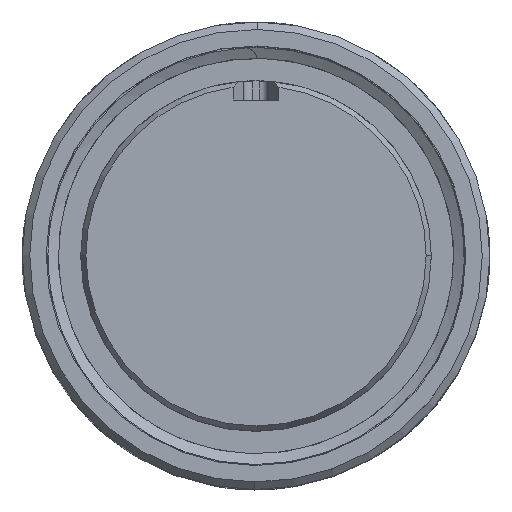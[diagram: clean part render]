
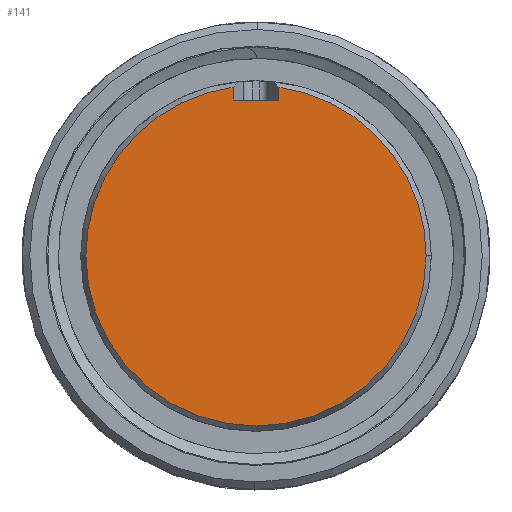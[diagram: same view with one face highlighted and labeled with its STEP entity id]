
A CAD part, top view. The second image highlights one B-rep face of the part: STEP entity #141.
In plain terms, the highlighted planar face has unit normal (0, 0, 1).
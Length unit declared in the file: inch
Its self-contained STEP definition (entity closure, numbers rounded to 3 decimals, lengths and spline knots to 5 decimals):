
#141 = ADVANCED_FACE ( 'NONE', ( #4339 ), #696, .F. ) ;
#154 = CARTESIAN_POINT ( 'NONE',  ( 0.07664, 0.655, 1.004 ) ) ;
#204 = DIRECTION ( 'NONE',  ( 1., 0., 0. ) ) ;
#354 = CARTESIAN_POINT ( 'NONE',  ( -0.042, 0.52, 1.004 ) ) ;
#439 = EDGE_CURVE ( 'NONE', #2322, #1089, #4084, .T. ) ;
#539 = VECTOR ( 'NONE', #1221, 39.37008 ) ;
#669 = AXIS2_PLACEMENT_3D ( 'NONE', #3134, #2744, #725 ) ;
#688 = VERTEX_POINT ( 'NONE', #3410 ) ;
#696 = PLANE ( 'NONE',  #669 ) ;
#725 = DIRECTION ( 'NONE',  ( -1., 0., 0. ) ) ;
#726 = DIRECTION ( 'NONE',  ( 1., 0., 0. ) ) ;
#738 = EDGE_LOOP ( 'NONE', ( #2308, #1257, #1462, #4022, #3546, #3319 ) ) ;
#951 = CARTESIAN_POINT ( 'NONE',  ( 0.07664, 0.56248, 1.004 ) ) ;
#966 = AXIS2_PLACEMENT_3D ( 'NONE', #1644, #3249, #1272 ) ;
#1089 = VERTEX_POINT ( 'NONE', #2529 ) ;
#1221 = DIRECTION ( 'NONE',  ( 0., -1., 0. ) ) ;
#1257 = ORIENTED_EDGE ( 'NONE', *, *, #439, .F. ) ;
#1272 = DIRECTION ( 'NONE',  ( 1., 0., 0. ) ) ;
#1348 = EDGE_CURVE ( 'NONE', #2044, #4490, #4583, .T. ) ;
#1462 = ORIENTED_EDGE ( 'NONE', *, *, #3572, .F. ) ;
#1524 = CARTESIAN_POINT ( 'NONE',  ( 0., 0., 1.004 ) ) ;
#1642 = DIRECTION ( 'NONE',  ( 1., 0., 0. ) ) ;
#1644 = CARTESIAN_POINT ( 'NONE',  ( 0., 0., 1.004 ) ) ;
#1784 = DIRECTION ( 'NONE',  ( 0., -1., 0. ) ) ;
#2044 = VERTEX_POINT ( 'NONE', #2071 ) ;
#2051 = CARTESIAN_POINT ( 'NONE',  ( 0., 0., 1.004 ) ) ;
#2071 = CARTESIAN_POINT ( 'NONE',  ( 0.56768, 0., 1.004 ) ) ;
#2113 = CARTESIAN_POINT ( 'NONE',  ( -0.56768, 0., 1.004 ) ) ;
#2308 = ORIENTED_EDGE ( 'NONE', *, *, #5093, .T. ) ;
#2322 = VERTEX_POINT ( 'NONE', #5079 ) ;
#2464 = CARTESIAN_POINT ( 'NONE',  ( -0.07664, 0.655, 1.004 ) ) ;
#2529 = CARTESIAN_POINT ( 'NONE',  ( 0.07664, 0.52, 1.004 ) ) ;
#2744 = DIRECTION ( 'NONE',  ( 0., 0., -1. ) ) ;
#2794 = VECTOR ( 'NONE', #1642, 39.37008 ) ;
#2826 = CIRCLE ( 'NONE', #966, 0.56768 ) ;
#3134 = CARTESIAN_POINT ( 'NONE',  ( 0., 0., 1.004 ) ) ;
#3158 = DIRECTION ( 'NONE',  ( 0., 0., 1. ) ) ;
#3212 = AXIS2_PLACEMENT_3D ( 'NONE', #2051, #3158, #726 ) ;
#3249 = DIRECTION ( 'NONE',  ( 0., 0., 1. ) ) ;
#3319 = ORIENTED_EDGE ( 'NONE', *, *, #1348, .T. ) ;
#3410 = CARTESIAN_POINT ( 'NONE',  ( -0.07664, 0.56248, 1.004 ) ) ;
#3415 = EDGE_CURVE ( 'NONE', #3732, #2044, #4957, .T. ) ;
#3546 = ORIENTED_EDGE ( 'NONE', *, *, #3415, .T. ) ;
#3558 = DIRECTION ( 'NONE',  ( 0., 0., 1. ) ) ;
#3572 = EDGE_CURVE ( 'NONE', #688, #2322, #4889, .T. ) ;
#3732 = VERTEX_POINT ( 'NONE', #2113 ) ;
#3808 = LINE ( 'NONE', #154, #4419 ) ;
#4022 = ORIENTED_EDGE ( 'NONE', *, *, #4073, .T. ) ;
#4073 = EDGE_CURVE ( 'NONE', #688, #3732, #2826, .T. ) ;
#4084 = LINE ( 'NONE', #354, #2794 ) ;
#4339 = FACE_OUTER_BOUND ( 'NONE', #738, .T. ) ;
#4419 = VECTOR ( 'NONE', #1784, 39.37008 ) ;
#4490 = VERTEX_POINT ( 'NONE', #951 ) ;
#4583 = CIRCLE ( 'NONE', #3212, 0.56768 ) ;
#4889 = LINE ( 'NONE', #2464, #539 ) ;
#4957 = CIRCLE ( 'NONE', #5220, 0.56768 ) ;
#5079 = CARTESIAN_POINT ( 'NONE',  ( -0.07664, 0.52, 1.004 ) ) ;
#5093 = EDGE_CURVE ( 'NONE', #4490, #1089, #3808, .T. ) ;
#5220 = AXIS2_PLACEMENT_3D ( 'NONE', #1524, #3558, #204 ) ;
